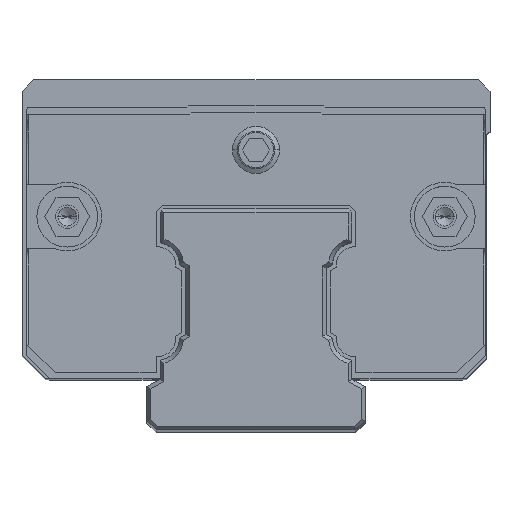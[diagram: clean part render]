
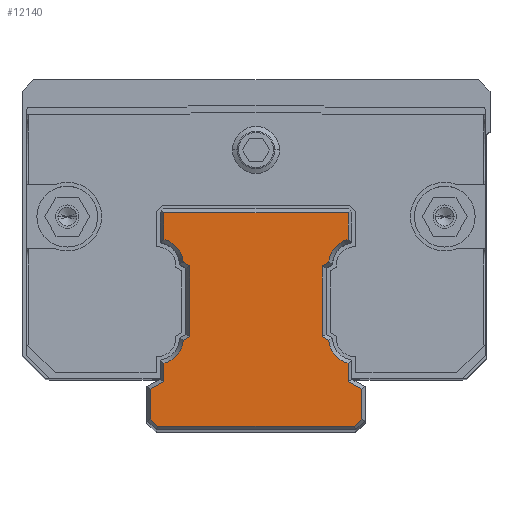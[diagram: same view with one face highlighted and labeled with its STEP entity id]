
A CAD part, top view. The second image highlights one B-rep face of the part: STEP entity #12140.
In plain terms, the highlighted planar face has unit normal (0, 0, 1).
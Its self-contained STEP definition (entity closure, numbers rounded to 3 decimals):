
#11454=DIRECTION('',(-1.,0.,0.));
#11455=VECTOR('',#11454,23.6);
#11456=CARTESIAN_POINT('',(11.8,11.35,89.85));
#11457=LINE('',#11456,#11455);
#11458=DIRECTION('',(0.,1.,0.));
#11459=VECTOR('',#11458,3.409);
#11460=CARTESIAN_POINT('',(11.8,7.941,89.85));
#11461=LINE('',#11460,#11459);
#11462=DIRECTION('',(0.866,0.5,0.));
#11463=VECTOR('',#11462,0.939);
#11464=CARTESIAN_POINT('',(8.5,4.539,89.85));
#11465=LINE('',#11464,#11463);
#11466=DIRECTION('',(0.,1.,0.));
#11467=VECTOR('',#11466,9.077);
#11468=CARTESIAN_POINT('',(8.5,-4.539,89.85));
#11469=LINE('',#11468,#11467);
#11470=DIRECTION('',(-0.866,0.5,0.));
#11471=VECTOR('',#11470,0.939);
#11472=CARTESIAN_POINT('',(9.313,-5.008,
89.85));
#11473=LINE('',#11472,#11471);
#11474=DIRECTION('',(0.,1.,0.));
#11475=VECTOR('',#11474,2.348);
#11476=CARTESIAN_POINT('',(11.8,-10.289,89.85));
#11477=LINE('',#11476,#11475);
#11478=DIRECTION('',(-0.866,0.5,0.));
#11479=VECTOR('',#11478,1.963);
#11480=CARTESIAN_POINT('',(13.5,-11.27,89.85));
#11481=LINE('',#11480,#11479);
#11482=DIRECTION('',(0.,1.,0.));
#11483=VECTOR('',#11482,3.823);
#11484=CARTESIAN_POINT('',(13.5,-15.093,89.85));
#11485=LINE('',#11484,#11483);
#11486=DIRECTION('',(0.707,0.707,0.));
#11487=VECTOR('',#11486,1.283);
#11488=CARTESIAN_POINT('',(12.593,-16.,89.85));
#11489=LINE('',#11488,#11487);
#11490=DIRECTION('',(1.,0.,0.));
#11491=VECTOR('',#11490,25.186);
#11492=CARTESIAN_POINT('',(-12.593,-16.,89.85));
#11493=LINE('',#11492,#11491);
#11494=DIRECTION('',(0.707,-0.707,0.));
#11495=VECTOR('',#11494,1.283);
#11496=CARTESIAN_POINT('',(-13.5,-15.093,89.85));
#11497=LINE('',#11496,#11495);
#11498=DIRECTION('',(0.,-1.,0.));
#11499=VECTOR('',#11498,3.823);
#11500=CARTESIAN_POINT('',(-13.5,-11.27,89.85));
#11501=LINE('',#11500,#11499);
#11502=DIRECTION('',(-0.866,-0.5,0.));
#11503=VECTOR('',#11502,1.963);
#11504=CARTESIAN_POINT('',(-11.8,-10.289,89.85));
#11505=LINE('',#11504,#11503);
#11506=DIRECTION('',(0.,-1.,0.));
#11507=VECTOR('',#11506,2.348);
#11508=CARTESIAN_POINT('',(-11.8,-7.941,
89.85));
#11509=LINE('',#11508,#11507);
#11510=DIRECTION('',(-0.866,-0.5,0.));
#11511=VECTOR('',#11510,0.939);
#11512=CARTESIAN_POINT('',(-8.5,-4.539,89.85));
#11513=LINE('',#11512,#11511);
#11514=DIRECTION('',(0.,-1.,0.));
#11515=VECTOR('',#11514,9.077);
#11516=CARTESIAN_POINT('',(-8.5,4.539,89.85));
#11517=LINE('',#11516,#11515);
#11518=DIRECTION('',(0.866,-0.5,0.));
#11519=VECTOR('',#11518,0.939);
#11520=CARTESIAN_POINT('',(-9.313,5.008,
89.85));
#11521=LINE('',#11520,#11519);
#11522=DIRECTION('',(0.,-1.,0.));
#11523=VECTOR('',#11522,3.409);
#11524=CARTESIAN_POINT('',(-11.8,11.35,89.85));
#11525=LINE('',#11524,#11523);
#11553=CARTESIAN_POINT('',(-12.658,4.692,89.85));
#11554=DIRECTION('',(0.,0.,-1.));
#11555=DIRECTION('',(0.255,0.967,0.));
#11556=AXIS2_PLACEMENT_3D('',#11553,#11554,#11555);
#11613=CARTESIAN_POINT('',(-12.658,-4.692,89.85));
#11614=DIRECTION('',(0.,0.,-1.));
#11615=DIRECTION('',(0.996,-0.094,0.));
#11616=AXIS2_PLACEMENT_3D('',#11613,#11614,#11615);
#11745=CARTESIAN_POINT('',(12.658,-4.692,89.85));
#11746=DIRECTION('',(0.,0.,-1.));
#11747=DIRECTION('',(-0.255,-0.967,0.));
#11748=AXIS2_PLACEMENT_3D('',#11745,#11746,#11747);
#11810=CARTESIAN_POINT('',(12.658,4.692,89.85));
#11811=DIRECTION('',(0.,0.,-1.));
#11812=DIRECTION('',(-0.996,0.094,0.));
#11813=AXIS2_PLACEMENT_3D('',#11810,#11811,#11812);
#11902=CARTESIAN_POINT('',(11.8,11.35,89.85));
#11903=CARTESIAN_POINT('',(-11.8,11.35,89.85));
#11904=VERTEX_POINT('',#11902);
#11905=VERTEX_POINT('',#11903);
#11910=CARTESIAN_POINT('',(11.8,7.941,89.85));
#11911=VERTEX_POINT('',#11910);
#11916=CARTESIAN_POINT('',(8.5,4.539,89.85));
#11917=CARTESIAN_POINT('',(9.313,5.008,89.85));
#11918=VERTEX_POINT('',#11916);
#11919=VERTEX_POINT('',#11917);
#11922=CARTESIAN_POINT('',(8.5,-4.539,89.85));
#11923=VERTEX_POINT('',#11922);
#11924=CARTESIAN_POINT('',(9.313,-5.008,
89.85));
#11925=VERTEX_POINT('',#11924);
#11932=CARTESIAN_POINT('',(11.8,-10.289,89.85));
#11933=CARTESIAN_POINT('',(11.8,-7.941,
89.85));
#11934=VERTEX_POINT('',#11932);
#11935=VERTEX_POINT('',#11933);
#11938=CARTESIAN_POINT('',(13.5,-11.27,89.85));
#11939=VERTEX_POINT('',#11938);
#11942=CARTESIAN_POINT('',(13.5,-15.093,89.85));
#11943=VERTEX_POINT('',#11942);
#11946=CARTESIAN_POINT('',(12.593,-16.,89.85));
#11947=VERTEX_POINT('',#11946);
#11950=CARTESIAN_POINT('',(-12.593,-16.,89.85));
#11951=VERTEX_POINT('',#11950);
#11954=CARTESIAN_POINT('',(-13.5,-15.093,89.85));
#11955=VERTEX_POINT('',#11954);
#11958=CARTESIAN_POINT('',(-13.5,-11.27,89.85));
#11959=VERTEX_POINT('',#11958);
#11962=CARTESIAN_POINT('',(-11.8,-10.289,89.85));
#11963=VERTEX_POINT('',#11962);
#11966=CARTESIAN_POINT('',(-11.8,-7.941,
89.85));
#11967=VERTEX_POINT('',#11966);
#11972=CARTESIAN_POINT('',(-8.5,-4.539,89.85));
#11973=CARTESIAN_POINT('',(-9.313,-5.008,
89.85));
#11974=VERTEX_POINT('',#11972);
#11975=VERTEX_POINT('',#11973);
#11978=CARTESIAN_POINT('',(-8.5,4.539,89.85));
#11979=VERTEX_POINT('',#11978);
#11982=CARTESIAN_POINT('',(-9.313,5.008,
89.85));
#11983=VERTEX_POINT('',#11982);
#11986=CARTESIAN_POINT('',(-11.8,7.941,
89.85));
#11987=VERTEX_POINT('',#11986);
#12091=CARTESIAN_POINT('',(0.,0.,89.85));
#12092=DIRECTION('',(0.,0.,1.));
#12093=DIRECTION('',(1.,0.,0.));
#12094=AXIS2_PLACEMENT_3D('',#12091,#12092,#12093);
#12095=PLANE('',#12094);
#12097=ORIENTED_EDGE('',*,*,#12096,.F.);
#12099=ORIENTED_EDGE('',*,*,#12098,.F.);
#12101=ORIENTED_EDGE('',*,*,#12100,.F.);
#12103=ORIENTED_EDGE('',*,*,#12102,.F.);
#12104=ORIENTED_EDGE('',*,*,#12069,.F.);
#12105=ORIENTED_EDGE('',*,*,#12081,.F.);
#12107=ORIENTED_EDGE('',*,*,#12106,.F.);
#12109=ORIENTED_EDGE('',*,*,#12108,.F.);
#12111=ORIENTED_EDGE('',*,*,#12110,.F.);
#12113=ORIENTED_EDGE('',*,*,#12112,.F.);
#12115=ORIENTED_EDGE('',*,*,#12114,.F.);
#12117=ORIENTED_EDGE('',*,*,#12116,.F.);
#12119=ORIENTED_EDGE('',*,*,#12118,.F.);
#12121=ORIENTED_EDGE('',*,*,#12120,.F.);
#12123=ORIENTED_EDGE('',*,*,#12122,.F.);
#12125=ORIENTED_EDGE('',*,*,#12124,.F.);
#12127=ORIENTED_EDGE('',*,*,#12126,.F.);
#12129=ORIENTED_EDGE('',*,*,#12128,.F.);
#12131=ORIENTED_EDGE('',*,*,#12130,.F.);
#12133=ORIENTED_EDGE('',*,*,#12132,.F.);
#12135=ORIENTED_EDGE('',*,*,#12134,.F.);
#12137=ORIENTED_EDGE('',*,*,#12136,.F.);
#12138=EDGE_LOOP('',(#12097,#12099,#12101,#12103,#12104,#12105,#12107,#12109,
#12111,#12113,#12115,#12117,#12119,#12121,#12123,#12125,#12127,#12129,#12131,
#12133,#12135,#12137));
#12139=FACE_OUTER_BOUND('',#12138,.F.);
#11557=CIRCLE('',#11556,3.36);
#11617=CIRCLE('',#11616,3.36);
#11749=CIRCLE('',#11748,3.36);
#11814=CIRCLE('',#11813,3.36);
#12069=EDGE_CURVE('',#11923,#11918,#11469,.T.);
#12081=EDGE_CURVE('',#11925,#11923,#11473,.T.);
#12096=EDGE_CURVE('',#11904,#11905,#11457,.T.);
#12098=EDGE_CURVE('',#11911,#11904,#11461,.T.);
#12100=EDGE_CURVE('',#11919,#11911,#11814,.T.);
#12102=EDGE_CURVE('',#11918,#11919,#11465,.T.);
#12106=EDGE_CURVE('',#11935,#11925,#11749,.T.);
#12108=EDGE_CURVE('',#11934,#11935,#11477,.T.);
#12110=EDGE_CURVE('',#11939,#11934,#11481,.T.);
#12112=EDGE_CURVE('',#11943,#11939,#11485,.T.);
#12114=EDGE_CURVE('',#11947,#11943,#11489,.T.);
#12116=EDGE_CURVE('',#11951,#11947,#11493,.T.);
#12118=EDGE_CURVE('',#11955,#11951,#11497,.T.);
#12120=EDGE_CURVE('',#11959,#11955,#11501,.T.);
#12122=EDGE_CURVE('',#11963,#11959,#11505,.T.);
#12124=EDGE_CURVE('',#11967,#11963,#11509,.T.);
#12126=EDGE_CURVE('',#11975,#11967,#11617,.T.);
#12128=EDGE_CURVE('',#11974,#11975,#11513,.T.);
#12130=EDGE_CURVE('',#11979,#11974,#11517,.T.);
#12132=EDGE_CURVE('',#11983,#11979,#11521,.T.);
#12134=EDGE_CURVE('',#11987,#11983,#11557,.T.);
#12136=EDGE_CURVE('',#11905,#11987,#11525,.T.);
#12140=ADVANCED_FACE('',(#12139),#12095,.T.);
